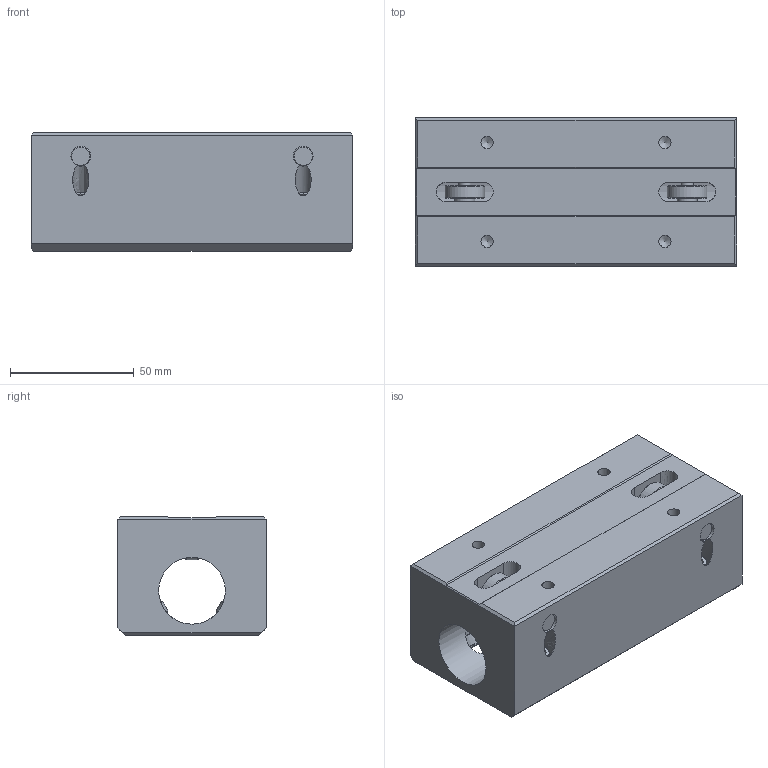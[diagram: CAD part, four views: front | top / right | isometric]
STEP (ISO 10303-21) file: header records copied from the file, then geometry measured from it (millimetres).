
FILE_DESCRIPTION((''),'2;1');
FILE_NAME('D:\製品 (図面)\カタログ用3D\リニアガイド関連\STEP形式\SLHW\SLHW25.stp','2010-06-02T17:07:51',('Tsuchiya'),(''),'Autodesk Inventor 10','Autodesk Inventor 10','');
FILE_SCHEMA(('AUTOMOTIVE_DESIGN { 1 0 10303 214 1 1 1 1 }'));
Length unit declared in the file: millimetre
Products named in the file (1): SLHW25
Bounding box: 130 x 60 x 48 mm (x, y, z)
Volume: 283019.2 mm3; surface area: 52048.3 mm2
Topology: 1 solids, 1 shells, 175 faces, 409 edges, 264 vertices
Faces by surface type: bspline 72, plane 56, cylinder 24, cone 20, torus 3
Full cylindrical faces by diameter (mm): 4.917 x2, 5 x3, 5.5 x3, 6.5 x3, 8 x4, 16 x3, 18 x2, 27 x1
Entity records: 5266 total; most frequent: CARTESIAN_POINT 2001, ORIENTED_EDGE 600, DIRECTION 578, EDGE_CURVE 300, EDGE_LOOP 296, VERTEX_POINT 230, AXIS2_PLACEMENT_3D 220, FACE_OUTER_BOUND 175
